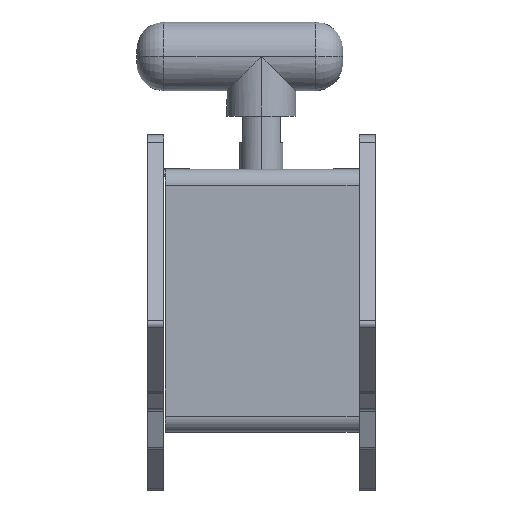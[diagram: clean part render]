
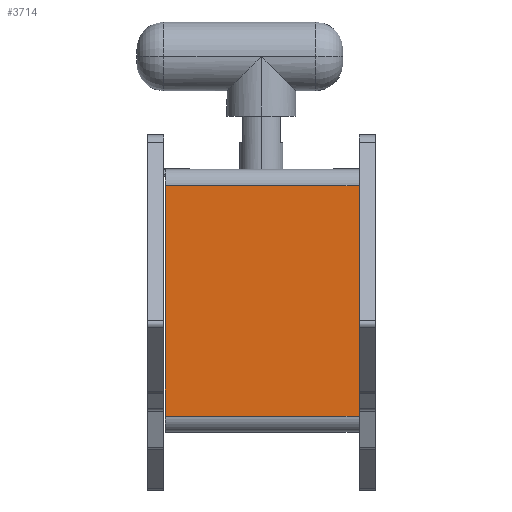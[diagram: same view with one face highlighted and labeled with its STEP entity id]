
A CAD part, left-side view. The second image highlights one B-rep face of the part: STEP entity #3714.
In plain terms, the highlighted planar face has unit normal (-1, 0, 0).
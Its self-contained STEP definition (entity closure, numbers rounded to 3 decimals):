
#46 = CARTESIAN_POINT ( 'NONE',  ( -22.7, 3., -52.368 ) ) ;
#260 = CARTESIAN_POINT ( 'NONE',  ( -22.7, 3., -9.868 ) ) ;
#267 = CARTESIAN_POINT ( 'NONE',  ( -22.7, 38.75, -9.868 ) ) ;
#354 = CARTESIAN_POINT ( 'NONE',  ( -22.7, 38.75, -52.368 ) ) ;
#1180 = VERTEX_POINT ( 'NONE', #260 ) ;
#1186 = VERTEX_POINT ( 'NONE', #267 ) ;
#1189 = VERTEX_POINT ( 'NONE', #354 ) ;
#1458 = VERTEX_POINT ( 'NONE', #46 ) ;
#2384 = ORIENTED_EDGE ( 'NONE', *, *, #3603, .T. ) ;
#2385 = ORIENTED_EDGE ( 'NONE', *, *, #3657, .T. ) ;
#2432 = ORIENTED_EDGE ( 'NONE', *, *, #3665, .F. ) ;
#3446 = LINE ( 'NONE', #8038, #3447 ) ;
#3447 = VECTOR ( 'NONE', #8045, 1000. ) ;
#3451 = LINE ( 'NONE', #8069, #3455 ) ;
#3455 = VECTOR ( 'NONE', #8070, 1000. ) ;
#3535 = FACE_OUTER_BOUND ( 'NONE', #5723, .T. ) ;
#3603 = EDGE_CURVE ( 'NONE', #1189, #1458, #7018, .T. ) ;
#3608 = EDGE_CURVE ( 'NONE', #1180, #1186, #7026, .T. ) ;
#3657 = EDGE_CURVE ( 'NONE', #1186, #1189, #3446, .T. ) ;
#3665 = EDGE_CURVE ( 'NONE', #1180, #1458, #3451, .T. ) ;
#3714 = ADVANCED_FACE ( 'NONE', ( #3535 ), #5907, .F. ) ;
#5723 = EDGE_LOOP ( 'NONE', ( #2385, #2384, #2432, #6949 ) ) ;
#5903 = CARTESIAN_POINT ( 'NONE',  ( -22.7, 38.75, -6.868 ) ) ;
#5907 = PLANE ( 'NONE',  #6048 ) ;
#5910 = DIRECTION ( 'NONE',  ( 1., 0., 0. ) ) ;
#5911 = DIRECTION ( 'NONE',  ( 0., 1., 0. ) ) ;
#6048 = AXIS2_PLACEMENT_3D ( 'NONE', #5903, #5910, #5911 ) ;
#6949 = ORIENTED_EDGE ( 'NONE', *, *, #3608, .T. ) ;
#7018 = LINE ( 'NONE', #9713, #7020 ) ;
#7020 = VECTOR ( 'NONE', #9701, 1000. ) ;
#7024 = VECTOR ( 'NONE', #9692, 1000. ) ;
#7026 = LINE ( 'NONE', #9693, #7024 ) ;
#8038 = CARTESIAN_POINT ( 'NONE',  ( -22.7, 38.75, -6.868 ) ) ;
#8045 = DIRECTION ( 'NONE',  ( 0., 0., -1. ) ) ;
#8069 = CARTESIAN_POINT ( 'NONE',  ( -22.7, 3., -6.868 ) ) ;
#8070 = DIRECTION ( 'NONE',  ( 0., 0., -1. ) ) ;
#9692 = DIRECTION ( 'NONE',  ( 0., 1., 0. ) ) ;
#9693 = CARTESIAN_POINT ( 'NONE',  ( -22.7, 38.75, -9.868 ) ) ;
#9701 = DIRECTION ( 'NONE',  ( 0., -1., 0. ) ) ;
#9713 = CARTESIAN_POINT ( 'NONE',  ( -22.7, 38.75, -52.368 ) ) ;
